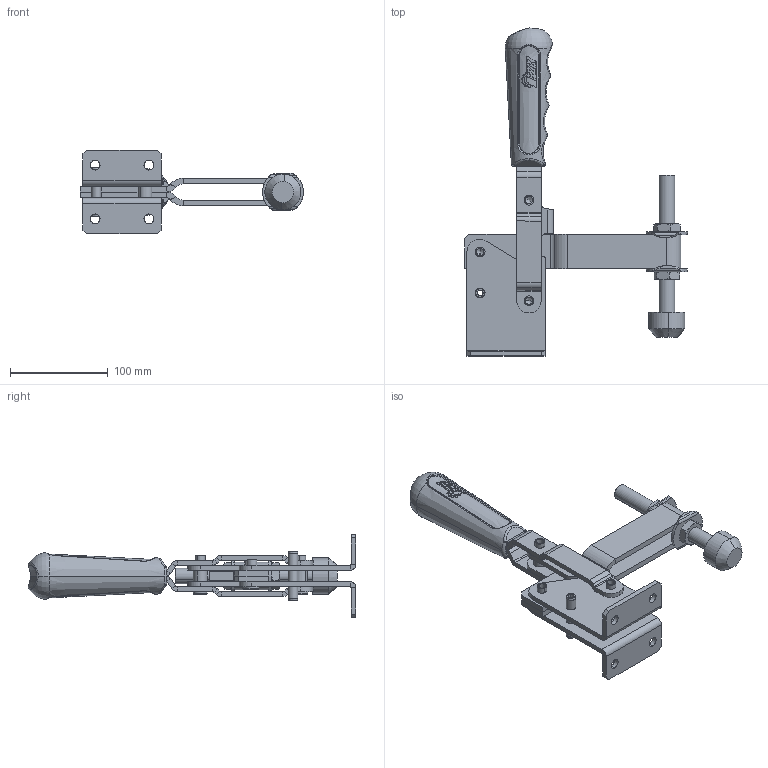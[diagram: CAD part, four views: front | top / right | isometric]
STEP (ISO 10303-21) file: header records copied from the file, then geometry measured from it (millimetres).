
FILE_DESCRIPTION (( 'STEP AP214' ), '1' );
FILE_NAME ('205_BLU.STEP', '2024-09-09T16:35:30', ( '' ), ( '' ), 'SwSTEP 2.0', 'SolidWorks 2023', '' );
FILE_SCHEMA (( 'AUTOMOTIVE_DESIGN' ));
Length unit declared in the file: millimetre
Products named in the file (17): FZK_205_BU_01_00; FZK_205_B_02_00; M16 GİJON; hex thin nut chamfered gradeab_iso_ISO - 4035 - M16 - N; FZK_205_BL_01_00; FZK_205_BU_02_00; M16 PABUÇ; FZK_205_B_06_00; FZK_205_B_05_00; FZK_205_B_04_00; FZK_205_B_07_00; spring pin slotted_hd_din_Spring Pin ISO 8752 - 10 x 50 - St; FZK_205_BL_02_00; 205_BLU; FZK_205_B_02A_00; TTMK_05_00; M16 PUL
Assembly tree (22 placements, depth 3):
  205_BLU
    TTMK_05_00
    FZK_205_BU_01_00
    FZK_205_B_02_00
      FZK_205_B_02A_00  x2
    FZK_205_BL_02_00
    FZK_205_BL_01_00
    FZK_205_B_04_00
    FZK_205_BU_02_00
    FZK_205_B_05_00  x2
    FZK_205_B_06_00  x2
    FZK_205_B_07_00  x2
    spring pin slotted_hd_din_Spring Pin ISO 8752 - 10 x 50 - St
    M16 PABUÇ
    hex thin nut chamfered gradeab_iso_ISO - 4035 - M16 - N  x2
    M16 PUL  x2
    M16 GİJON
Bounding box: 228.39 x 335.88 x 86 mm (x, y, z)
Volume: 511412.5 mm3; surface area: 195236.1 mm2
Topology: 21 solids, 21 shells, 773 faces, 1811 edges, 1081 vertices
Faces by surface type: plane 235, bspline 217, cylinder 214, cone 81, sphere 20, torus 6
Entity records: 32274 total; most frequent: CARTESIAN_POINT 18863, ORIENTED_EDGE 2978, DIRECTION 2139, EDGE_CURVE 1489, VERTEX_POINT 911, AXIS2_PLACEMENT_3D 845, EDGE_LOOP 688, FACE_OUTER_BOUND 625
